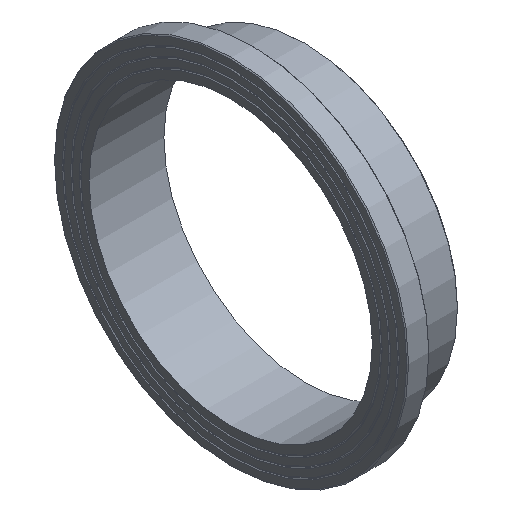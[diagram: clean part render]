
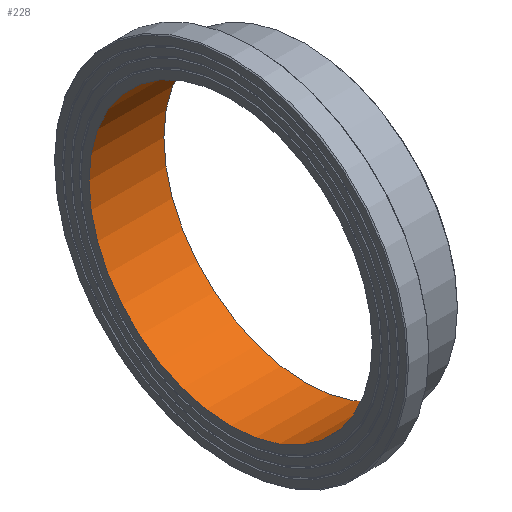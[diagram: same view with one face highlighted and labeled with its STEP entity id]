
A CAD part, isometric view. The second image highlights one B-rep face of the part: STEP entity #228.
In plain terms, the highlighted cylindrical face has radius 230.9 mm (diameter 461.8 mm), a full revolution.
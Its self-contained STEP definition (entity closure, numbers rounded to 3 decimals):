
#33=CYLINDRICAL_SURFACE('',#274,230.9);
#50=ORIENTED_EDGE('',*,*,#79,.F.);
#51=ORIENTED_EDGE('',*,*,#76,.T.);
#76=EDGE_CURVE('',#96,#96,#116,.T.);
#79=EDGE_CURVE('',#99,#99,#119,.T.);
#96=VERTEX_POINT('',#383);
#99=VERTEX_POINT('',#390);
#116=CIRCLE('',#257,230.9);
#119=CIRCLE('',#261,230.9);
#150=EDGE_LOOP('',(#50));
#151=EDGE_LOOP('',(#51));
#190=FACE_BOUND('',#150,.T.);
#191=FACE_BOUND('',#151,.T.);
#228=ADVANCED_FACE('',(#190,#191),#33,.F.);
#257=AXIS2_PLACEMENT_3D('',#382,#303,#304);
#261=AXIS2_PLACEMENT_3D('',#389,#311,#312);
#274=AXIS2_PLACEMENT_3D('',#410,#337,#338);
#303=DIRECTION('',(-1.,0.,0.));
#304=DIRECTION('',(0.,0.,1.));
#311=DIRECTION('',(-1.,0.,0.));
#312=DIRECTION('',(0.,0.,1.));
#337=DIRECTION('',(-1.,0.,0.));
#338=DIRECTION('',(0.,0.,1.));
#382=CARTESIAN_POINT('',(0.,0.,0.));
#383=CARTESIAN_POINT('',(0.,0.,230.9));
#389=CARTESIAN_POINT('',(122.,0.,0.));
#390=CARTESIAN_POINT('',(122.,0.,230.9));
#410=CARTESIAN_POINT('',(60.,0.,0.));
